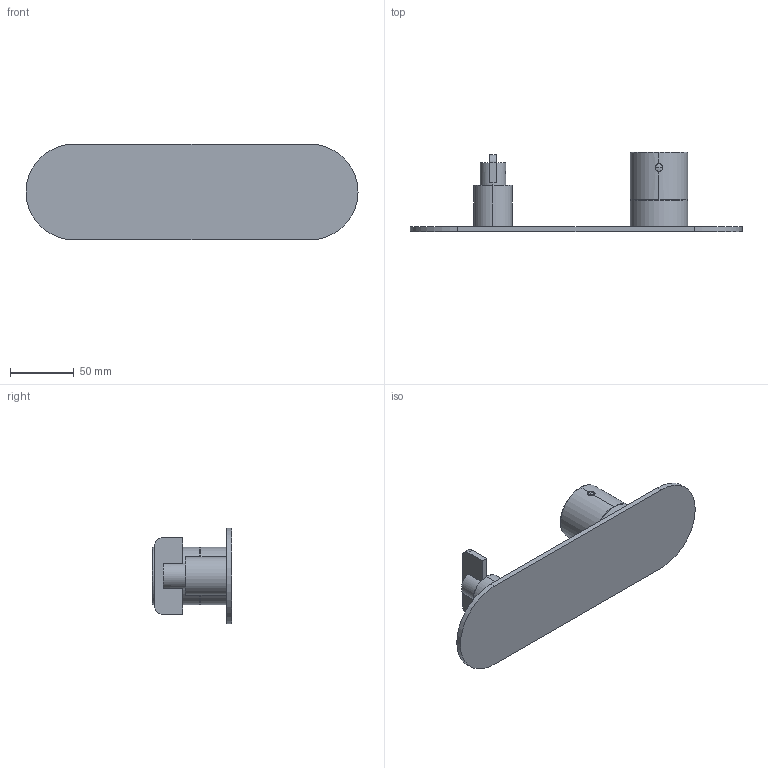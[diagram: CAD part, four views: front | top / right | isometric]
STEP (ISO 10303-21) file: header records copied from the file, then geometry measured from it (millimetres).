
FILE_DESCRIPTION((''),'2;1');
FILE_NAME('28000Y772B000000_SW0001','2023-09-11T14:08:48',('matteo.follador'),(''),'CREO PARAMETRIC BY PTC INC, 2022424','CREO PARAMETRIC BY PTC INC, 2022424','');
FILE_SCHEMA(('AUTOMOTIVE_DESIGN { 1 0 10303 214 1 1 1 1 }'));
Length unit declared in the file: millimetre
Products named in the file (1): 28000Y772B000000_SW0001
Bounding box: 260 x 62.2 x 75 mm (x, y, z)
Volume: 130801.1 mm3; surface area: 70072.8 mm2
Topology: 4 solids, 4 shells, 193 faces, 440 edges, 268 vertices
Faces by surface type: cylinder 71, plane 58, cone 36, torus 18, bspline 8, sphere 2
Entity records: 8678 total; most frequent: CARTESIAN_POINT 2842, DIRECTION 939, ORIENTED_EDGE 868, EDGE_CURVE 434, AXIS2_PLACEMENT_3D 377, VERTEX_POINT 268, EDGE_LOOP 218, PRESENTATION_STYLE_ASSIGNMENT 195
